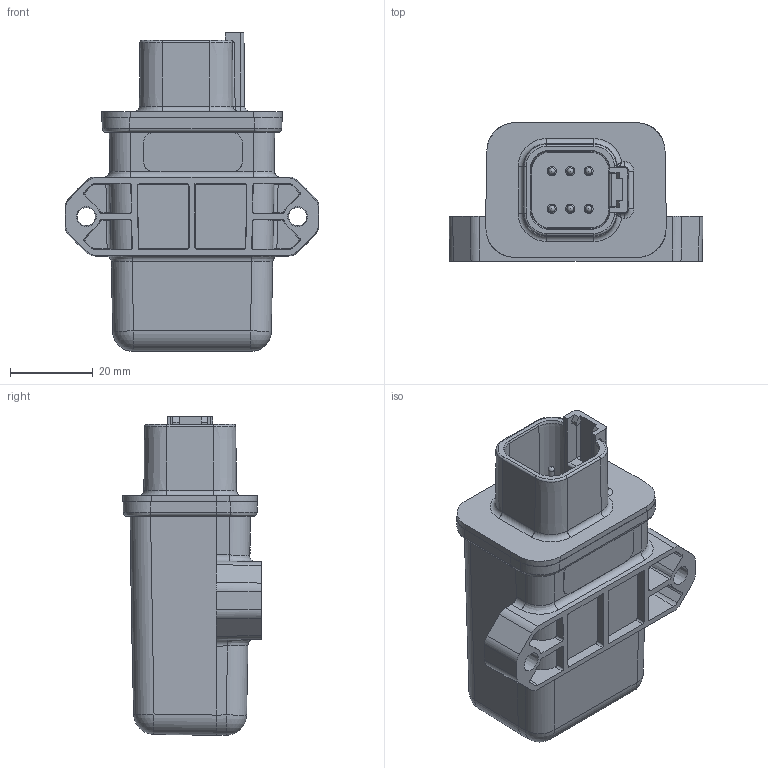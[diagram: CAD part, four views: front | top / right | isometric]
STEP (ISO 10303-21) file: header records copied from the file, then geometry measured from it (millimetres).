
FILE_DESCRIPTION(/* description */ (''),/* implementation_level */ '2;1');
FILE_NAME(/* name */ 'S:\Projects\LIN-CO, AX140603, Proj_19140\UNIT ASSEMBLY\RELEASED\A\AX140603.stp',/* time_stamp */ '2020-03-13T16:16:33-04:00',/* author */ ('tfisher'),/* organization */ (''),/* preprocessor_version */ 'ST-DEVELOPER v15.2',/* originating_system */ 'Autodesk Inventor 2014',/* authorisation */ '');
FILE_SCHEMA (('AUTOMOTIVE_DESIGN { 1 0 10303 214 3 1 1 }'));
Products named in the file (1): FG-AX140603 for STEP_Shrinkwrap_1
Bounding box: 61.29 x 33.41 x 76.95 mm (x, y, z)
Volume: 23944 mm3; surface area: 26194.7 mm2
Topology: 1 solids, 7 shells, 1901 faces, 4997 edges, 3222 vertices
Faces by surface type: plane 1142, bspline 415, cylinder 232, sphere 54, cone 34, torus 24
Full cylindrical faces by diameter (mm): 1.5 x2, 1.524 x12, 1.6 x6, 2.184 x6, 2.5 x4
Entity records: 66410 total; most frequent: CARTESIAN_POINT 20778, ORIENTED_EDGE 9768, DIRECTION 7479, EDGE_CURVE 4884, LINE 3319, VECTOR 3319, VERTEX_POINT 3206, EDGE_LOOP 2147
